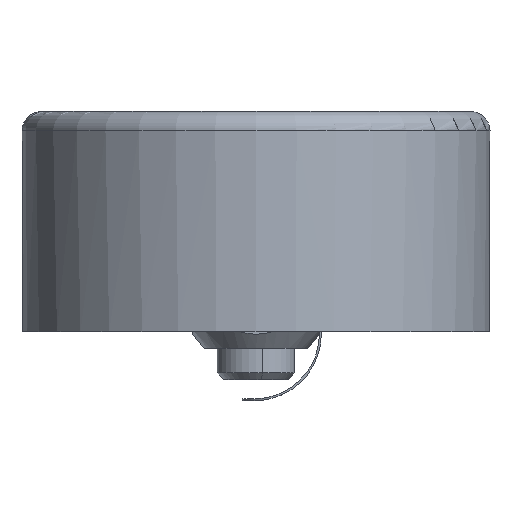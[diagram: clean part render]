
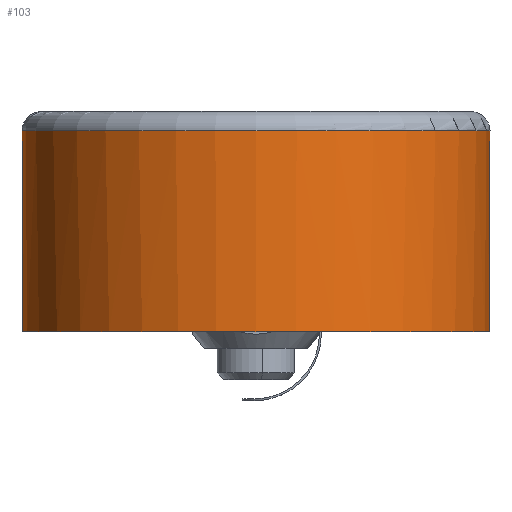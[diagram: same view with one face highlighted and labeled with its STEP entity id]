
A CAD part, left-side view. The second image highlights one B-rep face of the part: STEP entity #103.
In plain terms, the highlighted cylindrical face has radius 24 mm (diameter 48 mm), a partial arc.
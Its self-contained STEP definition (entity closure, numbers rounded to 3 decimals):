
#32 = CARTESIAN_POINT ( 'NONE',  ( -204.159, -4.717, 18.668 ) ) ;
#103 = ADVANCED_FACE ( 'NONE', ( #2187 ), #5829, .T. ) ;
#141 = CARTESIAN_POINT ( 'NONE',  ( -192.292, -38.93, 25.68 ) ) ;
#171 = EDGE_CURVE ( 'NONE', #3029, #5262, #1139, .T. ) ;
#361 =( BOUNDED_CURVE ( )  B_SPLINE_CURVE ( 3, ( #141, #10353, #1875, #1123 ),
 .UNSPECIFIED., .F., .T. ) 
 B_SPLINE_CURVE_WITH_KNOTS ( ( 4, 4 ),
 ( 2.092, 2.759 ),
 .UNSPECIFIED. ) 
 CURVE ( )  GEOMETRIC_REPRESENTATION_ITEM ( )  RATIONAL_B_SPLINE_CURVE ( ( 1., 0.963, 0.963, 1. ) ) 
 REPRESENTATION_ITEM ( '' )  );
#569 = EDGE_LOOP ( 'NONE', ( #977, #891, #9875, #8334, #7171, #8160, #3572, #2741 ) ) ;
#812 = CIRCLE ( 'NONE', #10625, 24. ) ;
#829 = EDGE_CURVE ( 'NONE', #10667, #5262, #7993, .T. ) ;
#891 = ORIENTED_EDGE ( 'NONE', *, *, #3403, .F. ) ;
#977 = ORIENTED_EDGE ( 'NONE', *, *, #3819, .T. ) ;
#1064 = CARTESIAN_POINT ( 'NONE',  ( -210.115, -50.798, 15.18 ) ) ;
#1123 = CARTESIAN_POINT ( 'NONE',  ( -204.159, -49.255, 18.668 ) ) ;
#1139 = CIRCLE ( 'NONE', #7410, 24. ) ;
#1701 = EDGE_CURVE ( 'NONE', #10667, #7616, #9391, .T. ) ;
#1810 = CARTESIAN_POINT ( 'NONE',  ( -206.123, -49.969, 18.066 ) ) ;
#1875 = CARTESIAN_POINT ( 'NONE',  ( -199.108, -47.225, 20.046 ) ) ;
#1879 = CARTESIAN_POINT ( 'NONE',  ( -192.292, -15.041, 25.68 ) ) ;
#1883 = CARTESIAN_POINT ( 'NONE',  ( -213.109, -26.986, 25.68 ) ) ;
#2025 = LINE ( 'NONE', #1064, #9381 ) ;
#2137 = CARTESIAN_POINT ( 'NONE',  ( -210.115, -3.173, 5.08 ) ) ;
#2175 = LINE ( 'NONE', #6527, #4481 ) ;
#2187 = FACE_OUTER_BOUND ( 'NONE', #569, .T. ) ;
#2237 = DIRECTION ( 'NONE',  ( 1., 0., 0. ) ) ;
#2335 = CARTESIAN_POINT ( 'NONE',  ( -208.111, -3.506, 17.332 ) ) ;
#2377 = EDGE_CURVE ( 'NONE', #3763, #9106, #3308, .T. ) ;
#2391 = CARTESIAN_POINT ( 'NONE',  ( -209.613, -3.236, 16.747 ) ) ;
#2741 = ORIENTED_EDGE ( 'NONE', *, *, #1701, .T. ) ;
#2778 = DIRECTION ( 'NONE',  ( 1., 0., 0. ) ) ;
#3029 = VERTEX_POINT ( 'NONE', #9867 ) ;
#3140 = CARTESIAN_POINT ( 'NONE',  ( -210.115, -3.173, 16.549 ) ) ;
#3212 = CARTESIAN_POINT ( 'NONE',  ( -210.115, -3.173, 16.549 ) ) ;
#3267 = CARTESIAN_POINT ( 'NONE',  ( -207.612, -3.618, 17.522 ) ) ;
#3308 = B_SPLINE_CURVE_WITH_KNOTS ( 'NONE', 3,
 ( #6515, #3426, #8668, #1810, #6150, #7845 ),
 .UNSPECIFIED., .F., .F.,
 ( 4, 2, 4 ),
 ( 0., 0.003, 0.006 ),
 .UNSPECIFIED. ) ;
#3403 = EDGE_CURVE ( 'NONE', #6772, #3438, #812, .T. ) ;
#3426 = CARTESIAN_POINT ( 'NONE',  ( -209.11, -50.672, 16.946 ) ) ;
#3435 = CARTESIAN_POINT ( 'NONE',  ( -199.108, -6.747, 20.046 ) ) ;
#3438 = VERTEX_POINT ( 'NONE', #2137 ) ;
#3471 = EDGE_CURVE ( 'NONE', #6772, #3763, #2025, .T. ) ;
#3572 = ORIENTED_EDGE ( 'NONE', *, *, #829, .F. ) ;
#3623 = CARTESIAN_POINT ( 'NONE',  ( -204.159, -49.255, 18.668 ) ) ;
#3763 = VERTEX_POINT ( 'NONE', #10649 ) ;
#3819 = EDGE_CURVE ( 'NONE', #7616, #3438, #2175, .T. ) ;
#4003 = CARTESIAN_POINT ( 'NONE',  ( -205.141, -4.323, 18.4 ) ) ;
#4481 = VECTOR ( 'NONE', #9912, 1000. ) ;
#4589 = CARTESIAN_POINT ( 'NONE',  ( -213.109, -26.986, 5.08 ) ) ;
#5113 = EDGE_CURVE ( 'NONE', #3029, #9106, #361, .T. ) ;
#5262 = VERTEX_POINT ( 'NONE', #6660 ) ;
#5427 = DIRECTION ( 'NONE',  ( 0., 0., 1. ) ) ;
#5775 = CARTESIAN_POINT ( 'NONE',  ( -204.159, -4.717, 18.668 ) ) ;
#5829 = CYLINDRICAL_SURFACE ( 'NONE', #9889, 24. ) ;
#5986 = CARTESIAN_POINT ( 'NONE',  ( -195.002, -10.32, 22.473 ) ) ;
#6150 = CARTESIAN_POINT ( 'NONE',  ( -205.14, -49.649, 18.4 ) ) ;
#6355 = DIRECTION ( 'NONE',  ( 0., 0., 1. ) ) ;
#6515 = CARTESIAN_POINT ( 'NONE',  ( -210.115, -50.798, 16.549 ) ) ;
#6527 = CARTESIAN_POINT ( 'NONE',  ( -210.115, -3.173, 15.18 ) ) ;
#6537 = CARTESIAN_POINT ( 'NONE',  ( -213.109, -26.986, 15.18 ) ) ;
#6660 = CARTESIAN_POINT ( 'NONE',  ( -192.292, -15.041, 25.68 ) ) ;
#6686 = CARTESIAN_POINT ( 'NONE',  ( -209.111, -3.316, 16.946 ) ) ;
#6772 = VERTEX_POINT ( 'NONE', #8333 ) ;
#7171 = ORIENTED_EDGE ( 'NONE', *, *, #5113, .F. ) ;
#7410 = AXIS2_PLACEMENT_3D ( 'NONE', #1883, #9363, #2778 ) ;
#7616 = VERTEX_POINT ( 'NONE', #3140 ) ;
#7845 = CARTESIAN_POINT ( 'NONE',  ( -204.159, -49.255, 18.668 ) ) ;
#7939 = DIRECTION ( 'NONE',  ( -1., 0., 0. ) ) ;
#7993 =( BOUNDED_CURVE ( )  B_SPLINE_CURVE ( 3, ( #32, #3435, #5986, #1879 ),
 .UNSPECIFIED., .F., .T. ) 
 B_SPLINE_CURVE_WITH_KNOTS ( ( 4, 4 ),
 ( 3.524, 4.191 ),
 .UNSPECIFIED. ) 
 CURVE ( )  GEOMETRIC_REPRESENTATION_ITEM ( )  RATIONAL_B_SPLINE_CURVE ( ( 1., 0.963, 0.963, 1. ) ) 
 REPRESENTATION_ITEM ( '' )  );
#8160 = ORIENTED_EDGE ( 'NONE', *, *, #171, .T. ) ;
#8333 = CARTESIAN_POINT ( 'NONE',  ( -210.115, -50.798, 5.08 ) ) ;
#8334 = ORIENTED_EDGE ( 'NONE', *, *, #2377, .T. ) ;
#8668 = CARTESIAN_POINT ( 'NONE',  ( -208.109, -50.482, 17.34 ) ) ;
#9106 = VERTEX_POINT ( 'NONE', #3623 ) ;
#9363 = DIRECTION ( 'NONE',  ( 0., 0., -1. ) ) ;
#9381 = VECTOR ( 'NONE', #5427, 1000. ) ;
#9391 = B_SPLINE_CURVE_WITH_KNOTS ( 'NONE', 3,
 ( #5775, #4003, #10861, #3267, #2335, #6686, #2391, #3212 ),
 .UNSPECIFIED., .F., .F.,
 ( 4, 2, 2, 4 ),
 ( 0., 0.003, 0.005, 0.007 ),
 .UNSPECIFIED. ) ;
#9867 = CARTESIAN_POINT ( 'NONE',  ( -192.292, -38.93, 25.68 ) ) ;
#9875 = ORIENTED_EDGE ( 'NONE', *, *, #3471, .T. ) ;
#9889 = AXIS2_PLACEMENT_3D ( 'NONE', #6537, #6355, #2237 ) ;
#9912 = DIRECTION ( 'NONE',  ( 0., 0., -1. ) ) ;
#10353 = CARTESIAN_POINT ( 'NONE',  ( -195.002, -43.652, 22.473 ) ) ;
#10404 = DIRECTION ( 'NONE',  ( 0., 0., -1. ) ) ;
#10625 = AXIS2_PLACEMENT_3D ( 'NONE', #4589, #10404, #7939 ) ;
#10649 = CARTESIAN_POINT ( 'NONE',  ( -210.115, -50.798, 16.549 ) ) ;
#10667 = VERTEX_POINT ( 'NONE', #10859 ) ;
#10859 = CARTESIAN_POINT ( 'NONE',  ( -204.159, -4.717, 18.668 ) ) ;
#10861 = CARTESIAN_POINT ( 'NONE',  ( -206.123, -4.002, 18.066 ) ) ;
